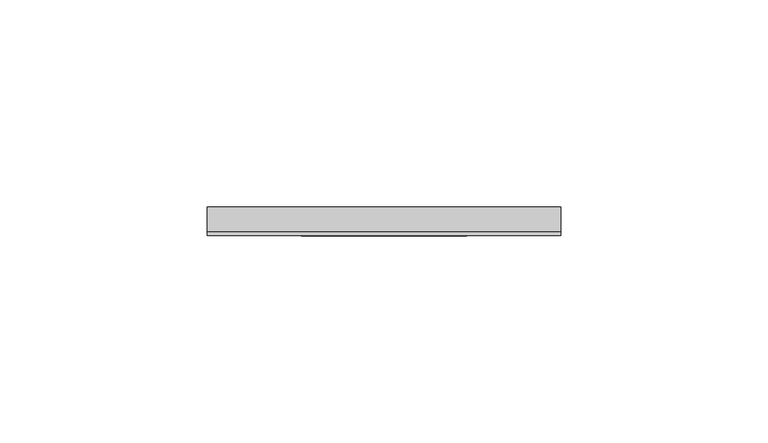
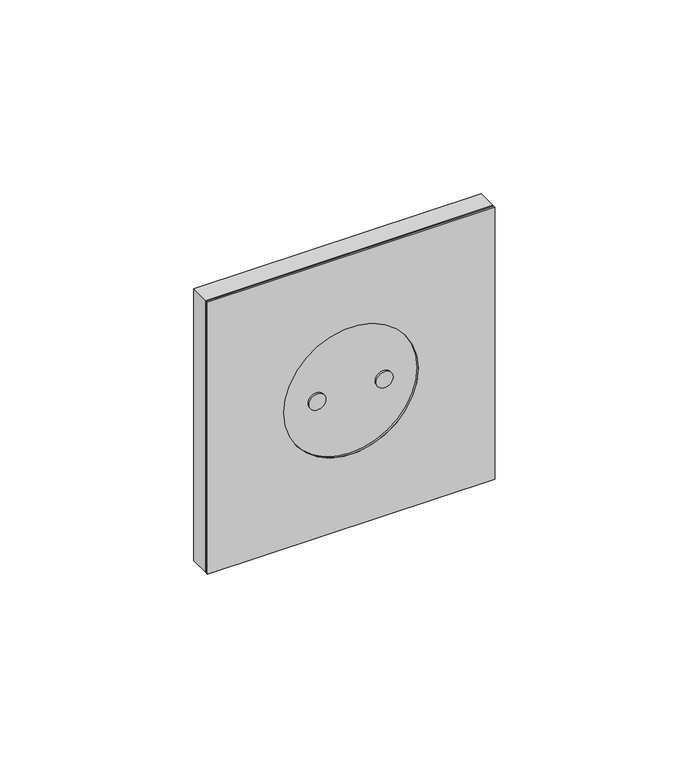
"""IFC4 building model written with IfcOpenShell, lengths in millimetres: proxy geometry, ZYR_05.02.02 Presa Simple Paret : 01 Presa SIMPLE."""

from ifc_helpers import new_model, si_unit, point, frame, frame_2d, origin, origin_2d, place, context, project, spatial, polyline, circle_curve, trimmed, segment, composite_curve, outline, extrude, source, transform, mapped, element, save


def electrical_fixtures_3a0554d0(model_context):
    return source(origin(), model_context, "Body", "SweptSolid", [
        extrude(outline(polyline([(42.75, -6.0), (-42.75, -6.0), (-42.75, 0.0), (42.75, 0.0), (42.75, -6.0)])), frame((0.0, 0.0, -42.75), z_axis=(0.0, 0.0, 1.0), x_axis=(1.0, 0.0, 0.0)), (0.0, 0.0, 1.0), 85.5),
        extrude(outline(polyline([(42.75, 42.75), (42.75, -42.75), (-42.75, -42.75), (-42.75, 42.75), (42.75, 42.75)]), holes=[composite_curve([segment(trimmed(circle_curve(origin_2d(), 20.0), [point((0.0, -20.0))], [point((0.0, 20.0))], True, "CARTESIAN"), True, "CONTINUOUS"), segment(trimmed(circle_curve(origin_2d(), 20.0), [point((0.0, 20.0))], [point((0.0, -20.0))], True, "CARTESIAN"), True, "CONTINUOUS")], self_intersect=False)]), frame((0.0, -7.0, 0.0), z_axis=(0.0, 1.0, 0.0), x_axis=(0.0, 0.0, 1.0)), (0.0, 0.0, 1.0), 1.0),
        extrude(outline(composite_curve([segment(trimmed(circle_curve(frame_2d((0.0, -10.0)), 2.5), [point((0.0, -12.5))], [point((0.0, -7.5))], False, "CARTESIAN"), True, "CONTINUOUS"), segment(trimmed(circle_curve(frame_2d((0.0, -10.0)), 2.5), [point((0.0, -7.5))], [point((0.0, -12.5))], False, "CARTESIAN"), True, "CONTINUOUS")], self_intersect=False)), frame((0.0, -7.0, 0.0), z_axis=(0.0, 1.0, 0.0), x_axis=(0.0, 0.0, 1.0)), (0.0, 0.0, 1.0), 1.0),
        extrude(outline(composite_curve([segment(trimmed(circle_curve(frame_2d((0.0, 10.0)), 2.5), [point((0.0, 7.5))], [point((0.0, 12.5))], False, "CARTESIAN"), True, "CONTINUOUS"), segment(trimmed(circle_curve(frame_2d((0.0, 10.0)), 2.5), [point((0.0, 12.5))], [point((0.0, 7.5))], False, "CARTESIAN"), True, "CONTINUOUS")], self_intersect=False)), frame((0.0, -7.0, 0.0), z_axis=(0.0, 1.0, 0.0), x_axis=(0.0, 0.0, 1.0)), (0.0, 0.0, 1.0), 1.0),
    ])


if __name__ == "__main__":
    model = new_model("IFC4")
    model_context = context("Model", 3, world=origin())
    ifc_project = project(units=[si_unit("LENGTHUNIT", "METRE", prefix="MILLI")], contexts=[model_context])
    site = spatial("IfcSite", under=ifc_project)
    building = spatial("IfcBuilding", under=site)
    placement = place(None, origin())
    electrical_fixtures_shape = electrical_fixtures_3a0554d0(model_context)
    element("IfcBuildingElementProxy", 1, Name="ZYR_05.02.02 Presa Simple Paret : 01 Presa SIMPLE", ObjectType="ZYR_05.02.02 Presa Simple Paret : 01 Presa SIMPLE", at=placement, inside=building, context=model_context, shape_type="MappedRepresentation", body=[
        mapped(electrical_fixtures_shape, transform((0.0, 0.0, 0.0), x_axis=(1.0, 0.0, 0.0), y_axis=(0.0, 1.0, 0.0), z_axis=(0.0, 0.0, 1.0))),
    ])
    save(model, "model.ifc")
